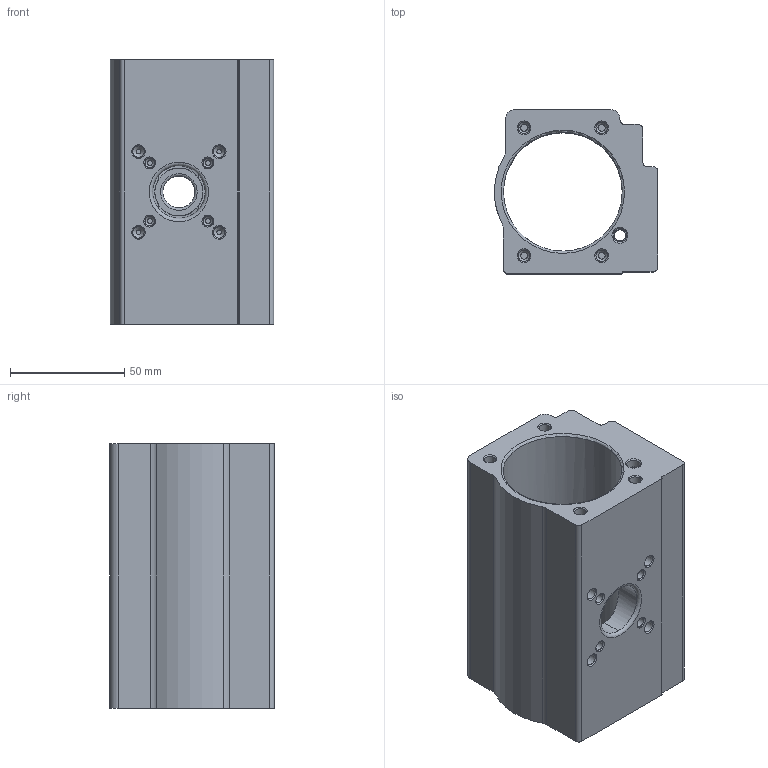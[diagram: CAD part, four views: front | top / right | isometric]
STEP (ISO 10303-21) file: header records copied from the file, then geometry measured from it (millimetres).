
FILE_DESCRIPTION(('STEP AP203'), '1');
FILE_NAME('NK052', '', ('UNSPECIFIED'), ('UNSPECIFIED'), 'C3D Converter', 'C3D Toolkit', '');
FILE_SCHEMA(('CONFIG_CONTROL_DESIGN'));
Length unit declared in the file: millimetre
Bounding box: 71.49 x 72 x 116 mm (x, y, z)
Volume: 276634.3 mm3; surface area: 62837 mm2
Topology: 1 solids, 1 shells, 170 faces, 395 edges, 248 vertices
Faces by surface type: cylinder 68, cone 53, plane 45, torus 4
Full cylindrical faces by diameter (mm): 4.2 x12, 5 x12, 6 x2, 10 x2, 11.5 x1, 14 x1, 52 x1
Entity records: 14339 total; most frequent: CARTESIAN_POINT 9429, DIRECTION 686, ORIENTED_EDGE 630, EDGE_CURVE 315, AXIS2_PLACEMENT_3D 303, EDGE_LOOP 299, VERTEX_POINT 248, COLOUR_RGB 171
